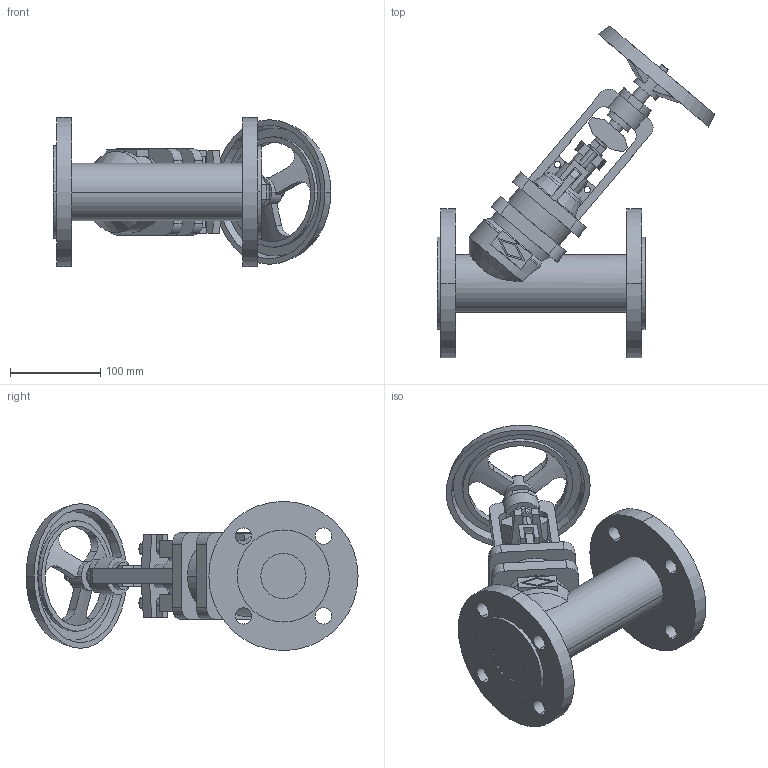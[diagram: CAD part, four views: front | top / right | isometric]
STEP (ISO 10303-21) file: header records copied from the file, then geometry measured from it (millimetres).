
FILE_DESCRIPTION(('OneSpaceDesigner STEP Export'),'2;1');
FILE_NAME('c000004406.stp','2010-05-10T 9:28:14',(''),(''),'OneSpace Designer STEP processor for AP214 (Solid Model)','OneSpace Modeling 15.50B 03-Nov-2007 (C) CoCreate Software GmbH','');
FILE_SCHEMA(('AUTOMOTIVE_DESIGN { 1 0 10303 214 1 1 1 1 }'));
Length unit declared in the file: millimetre
Products named in the file (1): 1
Bounding box: 307.12 x 367.2 x 165 mm (x, y, z)
Volume: 2292564.3 mm3; surface area: 280209.5 mm2
Topology: 1 solids, 1 shells, 298 faces, 787 edges, 517 vertices
Faces by surface type: plane 148, cylinder 105, cone 26, torus 19
Entity records: 11588 total; most frequent: CARTESIAN_POINT 2237, ORIENTED_EDGE 1574, DIRECTION 1269, EDGE_CURVE 787, VERTEX_POINT 517, AXIS2_PLACEMENT_3D 423, VECTOR 423, LINE 423
